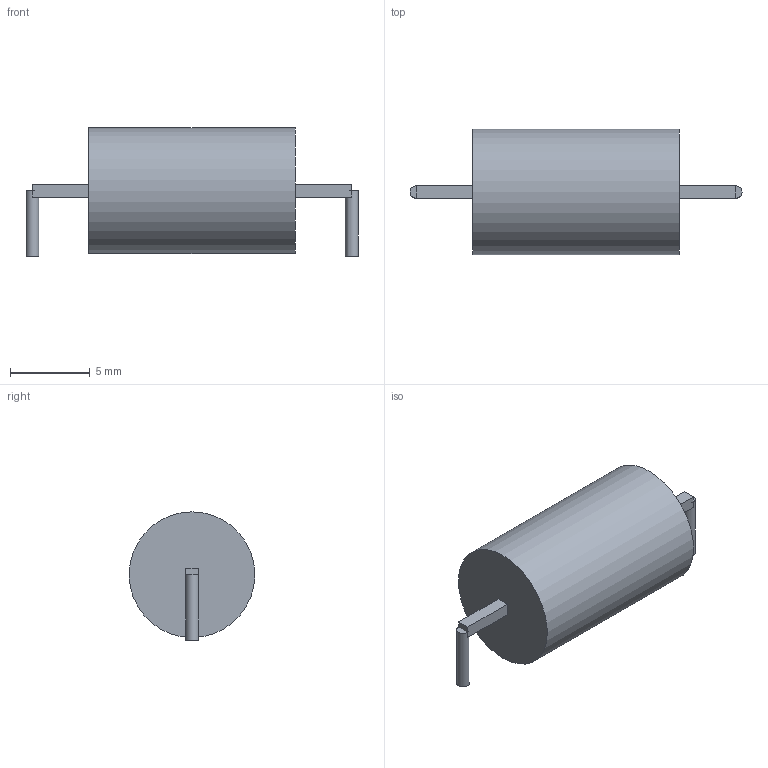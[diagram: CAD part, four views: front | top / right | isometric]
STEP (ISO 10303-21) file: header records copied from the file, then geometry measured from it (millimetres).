
FILE_DESCRIPTION(('Open CASCADE Model'),'2;1');
FILE_NAME('Open CASCADE Shape Model','2026-09-26T20:56:26',('Author'),( 'Open CASCADE'),'Open CASCADE STEP processor 7.9','Open CASCADE 7.9' ,'Unknown');
FILE_SCHEMA(('AUTOMOTIVE_DESIGN { 1 0 10303 214 1 1 1 1 }'));
Length unit declared in the file: millimetre
Products named in the file (6): Open CASCADE STEP translator 7.9 1; Open CASCADE STEP translator 7.9 1.1; Open CASCADE STEP translator 7.9 1.2; Open CASCADE STEP translator 7.9 1.3; Open CASCADE STEP translator 7.9 1.4; Open CASCADE STEP translator 7.9 1.5
Assembly tree (5 placements, depth 2):
  Open CASCADE STEP translator 7.9 1
    Open CASCADE STEP translator 7.9 1.1
    Open CASCADE STEP translator 7.9 1.2
    Open CASCADE STEP translator 7.9 1.3
    Open CASCADE STEP translator 7.9 1.4
    Open CASCADE STEP translator 7.9 1.5
Bounding box: 20.8 x 7.87 x 8.04 mm (x, y, z)
Volume: 639.4 mm3; surface area: 465.6 mm2
Topology: 5 solids, 5 shells, 21 faces, 33 edges, 22 vertices
Faces by surface type: plane 18, cylinder 3
Full cylindrical faces by diameter (mm): 0.8 x2, 7.874 x1
Entity records: 994 total; most frequent: DIRECTION 159, CARTESIAN_POINT 148, LINE 87, VECTOR 87, ORIENTED_EDGE 66, PCURVE 66, DEFINITIONAL_REPRESENTATION 66, AXIS2_PLACEMENT_3D 33
